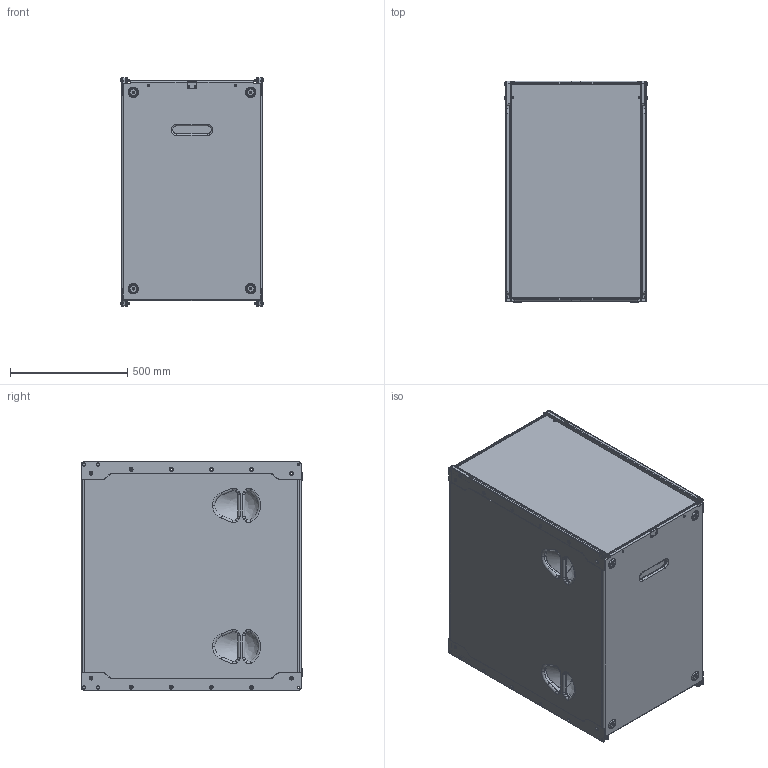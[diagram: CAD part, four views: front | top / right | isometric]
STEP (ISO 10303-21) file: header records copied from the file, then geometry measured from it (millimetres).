
FILE_DESCRIPTION (( 'STEP AP203' ), '1' );
FILE_NAME ('SEEBURG_Galeo-Sub-Vollversion.STEP', '2014-04-04T08:33:23', ( 'Michael Anter' ), ( 'SEEBURG acoustic line GmbH' ), 'SwSTEP 2.0', 'SolidWorks 2009', '' );
FILE_SCHEMA (( 'CONFIG_CONTROL_DESIGN' ));
Products named in the file (33): SEEBURG_Galeo-Sub-Vollversion; Imported; Imported1; Imported2; Imported3; Imported4; Imported5; Imported6; Imported7; Imported8; Imported9; Imported10; Imported11; Imported13; Imported14; Imported15; Imported16; Imported17; Imported18; Imported19; Imported20; Imported21; Imported22; Imported23; Imported25; Imported26; Imported27; Galeo-Sub-Vollversion_Mai2012_Leergehäuse; Befestigungsöse; abs_fuss; ABS-Fuﾟ; Griffschale_oval; Schaum
Assembly tree (39 placements, depth 3):
  SEEBURG_Galeo-Sub-Vollversion
    Imported9
    Imported19
    Imported21
    Imported10
    Imported2
    Imported20
    Schaum
    Imported11
    Befestigungsöse  x2
    abs_fuss  x4
      ABS-Fuﾟ
    Imported3
    Griffschale_oval  x4
    Imported13
    Imported4
    Imported22
    Imported14
    Galeo-Sub-Vollversion_Mai2012_Leergehäuse
    Imported5
    Imported15
    Imported27
    Imported6
    Imported16
    Imported26
    Imported7
    Imported23
    Imported1
    Imported17
    Imported25
    Imported8
    Imported
    Imported18
Bounding box: 607 x 943.74 x 971.61 mm (x, y, z)
Volume: 2564363.9 mm3; surface area: 9613888.7 mm2
Topology: 37 solids, 59 shells, 1840 faces, 4957 edges, 3221 vertices
Faces by surface type: cylinder 801, plane 607, cone 308, torus 80, bspline 44
Entity records: 62324 total; most frequent: CARTESIAN_POINT 15539, DIRECTION 9637, ORIENTED_EDGE 8456, EDGE_CURVE 4396, AXIS2_PLACEMENT_3D 3703, VERTEX_POINT 2858, LINE 2231, VECTOR 2231
